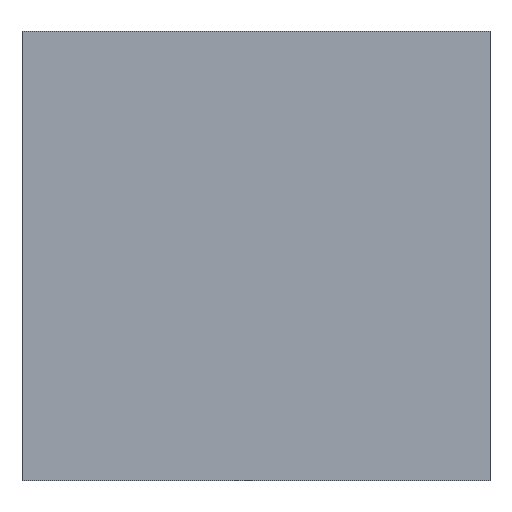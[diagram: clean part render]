
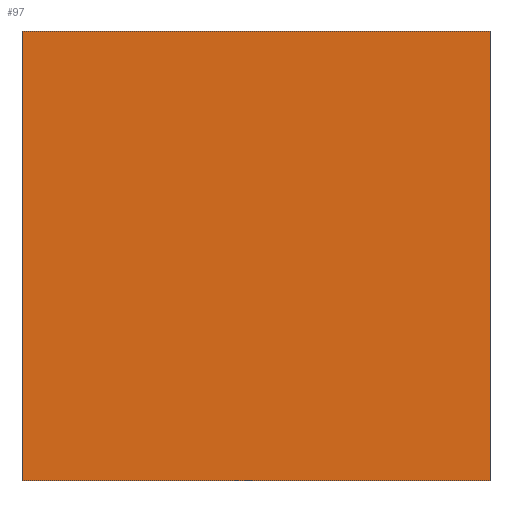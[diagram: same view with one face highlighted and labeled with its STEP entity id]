
A CAD part, front view. The second image highlights one B-rep face of the part: STEP entity #97.
In plain terms, the highlighted planar face has unit normal (0, -1, 0).
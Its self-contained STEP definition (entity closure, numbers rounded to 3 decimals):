
#21 = EDGE_CURVE('',#22,#24,#26,.T.);
#22 = VERTEX_POINT('',#23);
#23 = CARTESIAN_POINT('',(-37.5,-22.5,59.));
#24 = VERTEX_POINT('',#25);
#25 = CARTESIAN_POINT('',(-37.5,-22.5,131.));
#26 = LINE('',#27,#28);
#27 = CARTESIAN_POINT('',(-37.5,-22.5,59.));
#28 = VECTOR('',#29,1.);
#29 = DIRECTION('',(0.,0.,1.));
#61 = EDGE_CURVE('',#62,#64,#66,.T.);
#62 = VERTEX_POINT('',#63);
#63 = CARTESIAN_POINT('',(37.5,-22.5,59.));
#64 = VERTEX_POINT('',#65);
#65 = CARTESIAN_POINT('',(37.5,-22.5,131.));
#66 = LINE('',#67,#68);
#67 = CARTESIAN_POINT('',(37.5,-22.5,59.));
#68 = VECTOR('',#69,1.);
#69 = DIRECTION('',(0.,0.,1.));
#97 = ADVANCED_FACE('',(#98),#114,.F.);
#98 = FACE_BOUND('',#99,.F.);
#99 = EDGE_LOOP('',(#100,#106,#107,#113));
#100 = ORIENTED_EDGE('',*,*,#101,.F.);
#101 = EDGE_CURVE('',#22,#62,#102,.T.);
#102 = LINE('',#103,#104);
#103 = CARTESIAN_POINT('',(-37.5,-22.5,59.));
#104 = VECTOR('',#105,1.);
#105 = DIRECTION('',(1.,0.,0.));
#106 = ORIENTED_EDGE('',*,*,#21,.T.);
#107 = ORIENTED_EDGE('',*,*,#108,.T.);
#108 = EDGE_CURVE('',#24,#64,#109,.T.);
#109 = LINE('',#110,#111);
#110 = CARTESIAN_POINT('',(-37.5,-22.5,131.));
#111 = VECTOR('',#112,1.);
#112 = DIRECTION('',(1.,0.,0.));
#113 = ORIENTED_EDGE('',*,*,#61,.F.);
#114 = PLANE('',#115);
#115 = AXIS2_PLACEMENT_3D('',#116,#117,#118);
#116 = CARTESIAN_POINT('',(-37.5,-22.5,59.));
#117 = DIRECTION('',(0.,1.,0.));
#118 = DIRECTION('',(0.,0.,1.));
